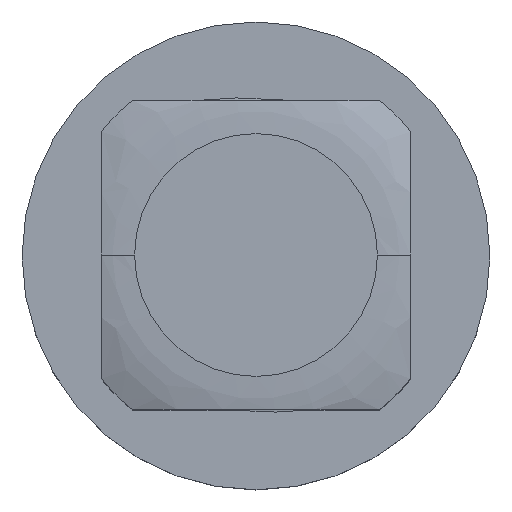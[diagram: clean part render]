
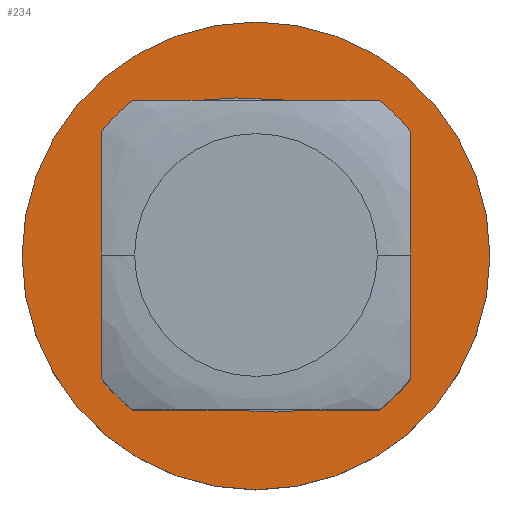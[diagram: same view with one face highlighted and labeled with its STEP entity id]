
A CAD part, top view. The second image highlights one B-rep face of the part: STEP entity #234.
In plain terms, the highlighted planar face has unit normal (0, 0, 1).
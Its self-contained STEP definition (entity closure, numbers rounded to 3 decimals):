
#33 = VERTEX_POINT ( 'NONE', #368 ) ;
#132 = CARTESIAN_POINT ( 'NONE',  ( 0., 0., 0.4 ) ) ;
#203 = DIRECTION ( 'NONE',  ( 1., 0., 0. ) ) ;
#208 = ORIENTED_EDGE ( 'NONE', *, *, #284, .T. ) ;
#211 = PLANE ( 'NONE',  #1180 ) ;
#234 = ADVANCED_FACE ( 'NONE', ( #321, #431 ), #211, .T. ) ;
#284 = EDGE_CURVE ( 'NONE', #33, #747, #539, .T. ) ;
#309 = DIRECTION ( 'NONE',  ( 1., 0., 0. ) ) ;
#321 = FACE_OUTER_BOUND ( 'NONE', #1423, .T. ) ;
#368 = CARTESIAN_POINT ( 'NONE',  ( 2.4, 0., 0.4 ) ) ;
#393 = DIRECTION ( 'NONE',  ( 0., 0., -1. ) ) ;
#431 = FACE_BOUND ( 'NONE', #1016, .T. ) ;
#450 = DIRECTION ( 'NONE',  ( 0., 0., 1. ) ) ;
#505 = DIRECTION ( 'NONE',  ( 1., 0., 0. ) ) ;
#539 = CIRCLE ( 'NONE', #931, 2.4 ) ;
#606 = DIRECTION ( 'NONE',  ( 1., 0., 0. ) ) ;
#654 = CIRCLE ( 'NONE', #1132, 1.565 ) ;
#723 = DIRECTION ( 'NONE',  ( 1., 0., 0. ) ) ;
#739 = CARTESIAN_POINT ( 'NONE',  ( 1.565, 0., 0.4 ) ) ;
#746 = EDGE_CURVE ( 'NONE', #1220, #1333, #979, .T. ) ;
#747 = VERTEX_POINT ( 'NONE', #1126 ) ;
#801 = CARTESIAN_POINT ( 'NONE',  ( -1.565, 0., 0.4 ) ) ;
#821 = EDGE_CURVE ( 'NONE', #747, #33, #1358, .T. ) ;
#861 = DIRECTION ( 'NONE',  ( 0., 0., 1. ) ) ;
#914 = ORIENTED_EDGE ( 'NONE', *, *, #746, .T. ) ;
#931 = AXIS2_PLACEMENT_3D ( 'NONE', #1559, #450, #203 ) ;
#973 = DIRECTION ( 'NONE',  ( 0., 0., -1. ) ) ;
#979 = CIRCLE ( 'NONE', #1288, 1.565 ) ;
#1016 = EDGE_LOOP ( 'NONE', ( #914, #1273 ) ) ;
#1052 = ORIENTED_EDGE ( 'NONE', *, *, #821, .T. ) ;
#1057 = CARTESIAN_POINT ( 'NONE',  ( 0., 0., 0.4 ) ) ;
#1070 = DIRECTION ( 'NONE',  ( 0., 0., 1. ) ) ;
#1126 = CARTESIAN_POINT ( 'NONE',  ( -2.4, 0., 0.4 ) ) ;
#1132 = AXIS2_PLACEMENT_3D ( 'NONE', #1446, #973, #723 ) ;
#1180 = AXIS2_PLACEMENT_3D ( 'NONE', #1057, #1070, #309 ) ;
#1182 = AXIS2_PLACEMENT_3D ( 'NONE', #1466, #861, #606 ) ;
#1220 = VERTEX_POINT ( 'NONE', #801 ) ;
#1273 = ORIENTED_EDGE ( 'NONE', *, *, #1389, .T. ) ;
#1288 = AXIS2_PLACEMENT_3D ( 'NONE', #132, #393, #505 ) ;
#1333 = VERTEX_POINT ( 'NONE', #739 ) ;
#1358 = CIRCLE ( 'NONE', #1182, 2.4 ) ;
#1389 = EDGE_CURVE ( 'NONE', #1333, #1220, #654, .T. ) ;
#1423 = EDGE_LOOP ( 'NONE', ( #1052, #208 ) ) ;
#1446 = CARTESIAN_POINT ( 'NONE',  ( 0., 0., 0.4 ) ) ;
#1466 = CARTESIAN_POINT ( 'NONE',  ( 0., 0., 0.4 ) ) ;
#1559 = CARTESIAN_POINT ( 'NONE',  ( 0., 0., 0.4 ) ) ;
